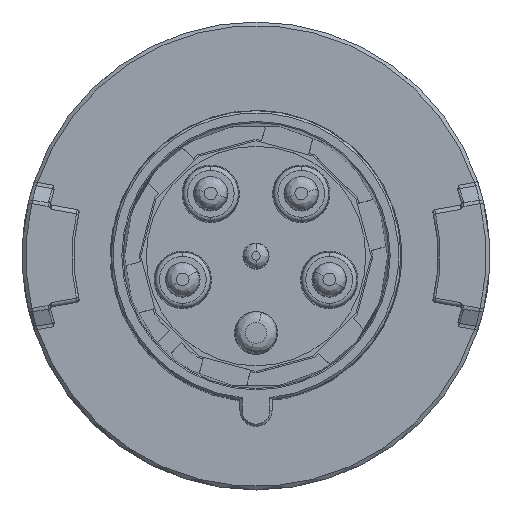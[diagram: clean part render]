
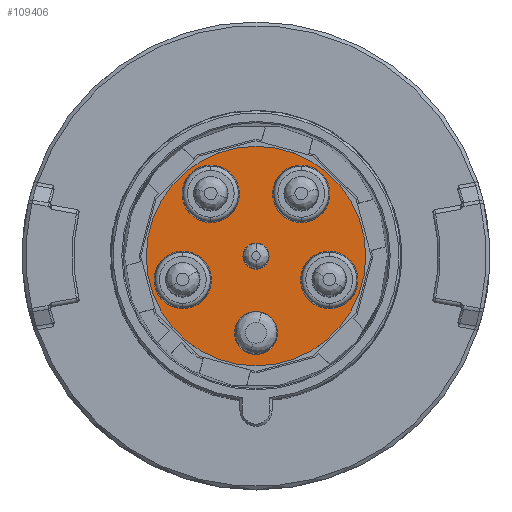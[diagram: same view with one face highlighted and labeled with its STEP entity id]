
A CAD part, top view. The second image highlights one B-rep face of the part: STEP entity #109406.
In plain terms, the highlighted planar face has unit normal (0, 0, 1).
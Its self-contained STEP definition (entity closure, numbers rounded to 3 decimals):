
#33739=CARTESIAN_POINT('',(0.,0.,0.6));
#33740=DIRECTION('',(0.,0.,1.));
#33741=DIRECTION('',(0.,-1.,0.));
#33742=AXIS2_PLACEMENT_3D('',#33739,#33740,#33741);
#33744=CARTESIAN_POINT('',(0.,0.,0.6));
#33745=DIRECTION('',(0.,0.,-1.));
#33746=DIRECTION('',(0.,-1.,0.));
#33747=AXIS2_PLACEMENT_3D('',#33744,#33745,#33746);
#33749=CARTESIAN_POINT('',(17.357,-5.64,0.6));
#33750=DIRECTION('',(0.,0.,1.));
#33751=DIRECTION('',(0.,-1.,0.));
#33752=AXIS2_PLACEMENT_3D('',#33749,#33750,#33751);
#33754=CARTESIAN_POINT('',(17.357,-5.64,0.6));
#33755=DIRECTION('',(0.,0.,1.));
#33756=DIRECTION('',(0.,1.,0.));
#33757=AXIS2_PLACEMENT_3D('',#33754,#33755,#33756);
#33759=CARTESIAN_POINT('',(10.727,14.765,0.6));
#33760=DIRECTION('',(0.,0.,1.));
#33761=DIRECTION('',(0.,-1.,0.));
#33762=AXIS2_PLACEMENT_3D('',#33759,#33760,#33761);
#33764=CARTESIAN_POINT('',(10.727,14.765,0.6));
#33765=DIRECTION('',(0.,0.,1.));
#33766=DIRECTION('',(0.,1.,0.));
#33767=AXIS2_PLACEMENT_3D('',#33764,#33765,#33766);
#33769=CARTESIAN_POINT('',(-10.727,14.765,0.6));
#33770=DIRECTION('',(0.,0.,1.));
#33771=DIRECTION('',(0.,-1.,0.));
#33772=AXIS2_PLACEMENT_3D('',#33769,#33770,#33771);
#33774=CARTESIAN_POINT('',(-10.727,14.765,0.6));
#33775=DIRECTION('',(0.,0.,1.));
#33776=DIRECTION('',(0.,1.,0.));
#33777=AXIS2_PLACEMENT_3D('',#33774,#33775,#33776);
#33779=CARTESIAN_POINT('',(-17.357,-5.64,0.6));
#33780=DIRECTION('',(0.,0.,1.));
#33781=DIRECTION('',(0.,-1.,0.));
#33782=AXIS2_PLACEMENT_3D('',#33779,#33780,#33781);
#33784=CARTESIAN_POINT('',(-17.357,-5.64,0.6));
#33785=DIRECTION('',(0.,0.,1.));
#33786=DIRECTION('',(0.,1.,0.));
#33787=AXIS2_PLACEMENT_3D('',#33784,#33785,#33786);
#33789=CARTESIAN_POINT('',(0.,0.,0.6));
#33790=DIRECTION('',(0.,0.,1.));
#33791=DIRECTION('',(0.,-1.,0.));
#33792=AXIS2_PLACEMENT_3D('',#33789,#33790,#33791);
#33794=CARTESIAN_POINT('',(0.,0.,0.6));
#33795=DIRECTION('',(0.,0.,1.));
#33796=DIRECTION('',(0.,1.,0.));
#33797=AXIS2_PLACEMENT_3D('',#33794,#33795,#33796);
#33799=CARTESIAN_POINT('',(0.,-18.25,0.6));
#33800=DIRECTION('',(0.,0.,1.));
#33801=DIRECTION('',(0.,-1.,0.));
#33802=AXIS2_PLACEMENT_3D('',#33799,#33800,#33801);
#33804=CARTESIAN_POINT('',(0.,-18.25,0.6));
#33805=DIRECTION('',(0.,0.,1.));
#33806=DIRECTION('',(0.,1.,0.));
#33807=AXIS2_PLACEMENT_3D('',#33804,#33805,#33806);
#39858=CARTESIAN_POINT('',(0.,-26.,0.6));
#39860=VERTEX_POINT('',#39858);
#39862=CARTESIAN_POINT('',(0.,26.,0.6));
#39864=VERTEX_POINT('',#39862);
#39865=CARTESIAN_POINT('',(0.,-3.1,0.6));
#39866=CARTESIAN_POINT('',(0.,3.1,0.6));
#39867=VERTEX_POINT('',#39865);
#39868=VERTEX_POINT('',#39866);
#39869=CARTESIAN_POINT('',(0.,-23.35,0.6));
#39870=CARTESIAN_POINT('',(0.,-13.15,0.6));
#39871=VERTEX_POINT('',#39869);
#39872=VERTEX_POINT('',#39870);
#39873=CARTESIAN_POINT('',(17.357,-12.433,0.6));
#39874=CARTESIAN_POINT('',(17.357,1.154,0.6));
#39875=VERTEX_POINT('',#39873);
#39876=VERTEX_POINT('',#39874);
#39877=CARTESIAN_POINT('',(10.727,7.971,0.6));
#39878=CARTESIAN_POINT('',(10.727,21.558,0.6));
#39879=VERTEX_POINT('',#39877);
#39880=VERTEX_POINT('',#39878);
#39881=CARTESIAN_POINT('',(-10.727,7.971,0.6));
#39882=CARTESIAN_POINT('',(-10.727,21.558,0.6));
#39883=VERTEX_POINT('',#39881);
#39884=VERTEX_POINT('',#39882);
#39885=CARTESIAN_POINT('',(-17.357,-12.433,0.6));
#39886=CARTESIAN_POINT('',(-17.357,1.154,0.6));
#39887=VERTEX_POINT('',#39885);
#39888=VERTEX_POINT('',#39886);
#109361=CARTESIAN_POINT('',(0.,0.,0.6));
#109362=DIRECTION('',(0.,0.,-1.));
#109363=DIRECTION('',(0.,1.,0.));
#109364=AXIS2_PLACEMENT_3D('',#109361,#109362,#109363);
#109365=PLANE('2307',#109364);
#109366=ORIENTED_EDGE('8203',*,*,#109316,.F.);
#109367=ORIENTED_EDGE('8201',*,*,#109344,.T.);
#109368=EDGE_LOOP('2307',(#109366,#109367));
#109369=FACE_OUTER_BOUND('2307',#109368,.F.);
#109371=ORIENTED_EDGE('8208',*,*,#109370,.T.);
#109373=ORIENTED_EDGE('8209',*,*,#109372,.T.);
#109374=EDGE_LOOP('2307',(#109371,#109373));
#109375=FACE_BOUND('2307',#109374,.F.);
#109377=ORIENTED_EDGE('8210',*,*,#109376,.T.);
#109379=ORIENTED_EDGE('8211',*,*,#109378,.T.);
#109380=EDGE_LOOP('2307',(#109377,#109379));
#109381=FACE_BOUND('2307',#109380,.F.);
#109383=ORIENTED_EDGE('8212',*,*,#109382,.T.);
#109385=ORIENTED_EDGE('8213',*,*,#109384,.T.);
#109386=EDGE_LOOP('2307',(#109383,#109385));
#109387=FACE_BOUND('2307',#109386,.F.);
#109389=ORIENTED_EDGE('8214',*,*,#109388,.T.);
#109391=ORIENTED_EDGE('8215',*,*,#109390,.T.);
#109392=EDGE_LOOP('2307',(#109389,#109391));
#109393=FACE_BOUND('2307',#109392,.F.);
#109395=ORIENTED_EDGE('8204',*,*,#109394,.T.);
#109397=ORIENTED_EDGE('8205',*,*,#109396,.T.);
#109398=EDGE_LOOP('2307',(#109395,#109397));
#109399=FACE_BOUND('2307',#109398,.F.);
#109401=ORIENTED_EDGE('8206',*,*,#109400,.T.);
#109403=ORIENTED_EDGE('8207',*,*,#109402,.T.);
#109404=EDGE_LOOP('2307',(#109401,#109403));
#109405=FACE_BOUND('2307',#109404,.F.);
#33743=CIRCLE('8203',#33742,26.);
#33748=CIRCLE('8201',#33747,26.);
#33753=CIRCLE('8208',#33752,6.793);
#33758=CIRCLE('8209',#33757,6.793);
#33763=CIRCLE('8210',#33762,6.793);
#33768=CIRCLE('8211',#33767,6.793);
#33773=CIRCLE('8212',#33772,6.793);
#33778=CIRCLE('8213',#33777,6.793);
#33783=CIRCLE('8214',#33782,6.793);
#33788=CIRCLE('8215',#33787,6.793);
#33793=CIRCLE('8204',#33792,3.1);
#33798=CIRCLE('8205',#33797,3.1);
#33803=CIRCLE('8206',#33802,5.1);
#33808=CIRCLE('8207',#33807,5.1);
#109316=EDGE_CURVE('8203',#39860,#39864,#33743,.T.);
#109344=EDGE_CURVE('8201',#39860,#39864,#33748,.T.);
#109370=EDGE_CURVE('8208',#39875,#39876,#33753,.T.);
#109372=EDGE_CURVE('8209',#39876,#39875,#33758,.T.);
#109376=EDGE_CURVE('8210',#39879,#39880,#33763,.T.);
#109378=EDGE_CURVE('8211',#39880,#39879,#33768,.T.);
#109382=EDGE_CURVE('8212',#39883,#39884,#33773,.T.);
#109384=EDGE_CURVE('8213',#39884,#39883,#33778,.T.);
#109388=EDGE_CURVE('8214',#39887,#39888,#33783,.T.);
#109390=EDGE_CURVE('8215',#39888,#39887,#33788,.T.);
#109394=EDGE_CURVE('8204',#39867,#39868,#33793,.T.);
#109396=EDGE_CURVE('8205',#39868,#39867,#33798,.T.);
#109400=EDGE_CURVE('8206',#39871,#39872,#33803,.T.);
#109402=EDGE_CURVE('8207',#39872,#39871,#33808,.T.);
#109406=ADVANCED_FACE('2307',(#109369,#109375,#109381,#109387,#109393,#109399,
#109405),#109365,.F.);
